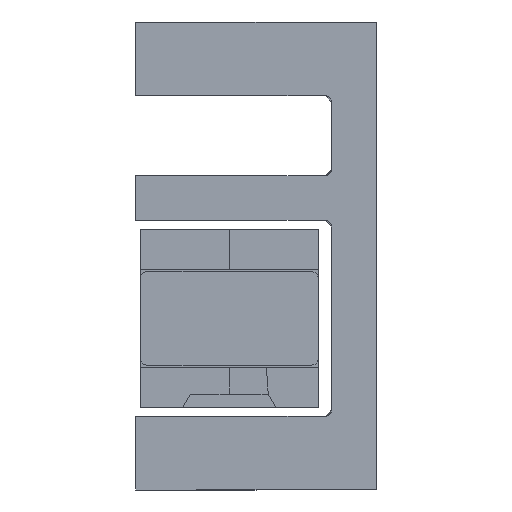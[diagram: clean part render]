
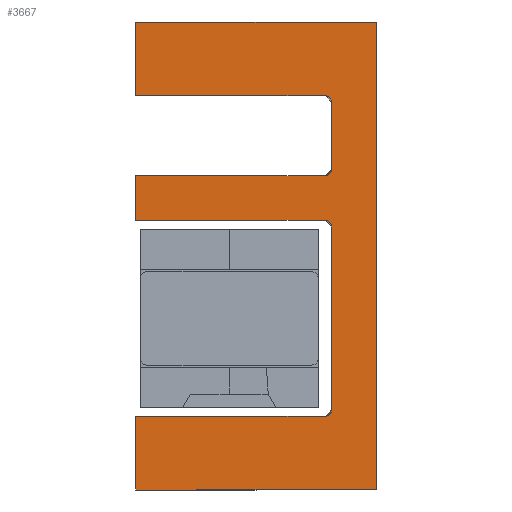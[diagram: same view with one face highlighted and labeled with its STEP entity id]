
A CAD part, front view. The second image highlights one B-rep face of the part: STEP entity #3667.
In plain terms, the highlighted planar face has unit normal (0, -1, 0) as drawn and (0, 0, -1) by its records, which use the part's own axes.
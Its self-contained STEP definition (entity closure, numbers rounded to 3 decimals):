
#71 = CIRCLE ( 'NONE', #4836, 0.3 ) ;
#95 = ORIENTED_EDGE ( 'NONE', *, *, #5570, .F. ) ;
#126 = ORIENTED_EDGE ( 'NONE', *, *, #2183, .T. ) ;
#128 = CIRCLE ( 'NONE', #4555, 0.3 ) ;
#149 = CARTESIAN_POINT ( 'NONE',  ( 12.4, 1.6, -2870. ) ) ;
#159 = CARTESIAN_POINT ( 'NONE',  ( 12.7, 10.1, -2870. ) ) ;
#184 = DIRECTION ( 'NONE',  ( 0., -1., 0. ) ) ;
#193 = CARTESIAN_POINT ( 'NONE',  ( 22.3, 1.6, -2870. ) ) ;
#306 = VERTEX_POINT ( 'NONE', #6514 ) ;
#453 = ORIENTED_EDGE ( 'NONE', *, *, #702, .T. ) ;
#595 = PLANE ( 'NONE',  #3410 ) ;
#604 = DIRECTION ( 'NONE',  ( -1., 0., 0. ) ) ;
#640 = CARTESIAN_POINT ( 'NONE',  ( 16., 1.6, -2870. ) ) ;
#641 = VECTOR ( 'NONE', #4451, 1000. ) ;
#672 = LINE ( 'NONE', #4343, #641 ) ;
#674 = LINE ( 'NONE', #193, #859 ) ;
#681 = VECTOR ( 'NONE', #4325, 1000. ) ;
#693 = EDGE_CURVE ( 'NONE', #3002, #4669, #6436, .T. ) ;
#702 = EDGE_CURVE ( 'NONE', #1860, #306, #3296, .T. ) ;
#738 = ORIENTED_EDGE ( 'NONE', *, *, #5176, .F. ) ;
#859 = VECTOR ( 'NONE', #4879, 1000. ) ;
#895 = DIRECTION ( 'NONE',  ( 0., 1., 0. ) ) ;
#924 = EDGE_CURVE ( 'NONE', #6634, #4389, #128, .T. ) ;
#1288 = DIRECTION ( 'NONE',  ( 0., 0., -1. ) ) ;
#1315 = DIRECTION ( 'NONE',  ( 0., 0., 1. ) ) ;
#1376 = EDGE_CURVE ( 'NONE', #6278, #5947, #2585, .T. ) ;
#1378 = DIRECTION ( 'NONE',  ( 1., 0., 0. ) ) ;
#1404 = LINE ( 'NONE', #3520, #5212 ) ;
#1506 = EDGE_CURVE ( 'NONE', #5431, #2708, #6385, .T. ) ;
#1605 = CARTESIAN_POINT ( 'NONE',  ( 20.8, 12.4, -2870. ) ) ;
#1801 = ORIENTED_EDGE ( 'NONE', *, *, #693, .T. ) ;
#1836 = EDGE_CURVE ( 'NONE', #4497, #2887, #5273, .T. ) ;
#1855 = ORIENTED_EDGE ( 'NONE', *, *, #6544, .F. ) ;
#1860 = VERTEX_POINT ( 'NONE', #3919 ) ;
#1868 = CARTESIAN_POINT ( 'NONE',  ( 22.3, 1.6, -2870. ) ) ;
#2111 = ORIENTED_EDGE ( 'NONE', *, *, #4165, .F. ) ;
#2142 = LINE ( 'NONE', #6263, #6172 ) ;
#2183 = EDGE_CURVE ( 'NONE', #3126, #1860, #71, .T. ) ;
#2337 = LINE ( 'NONE', #1868, #5378 ) ;
#2585 = LINE ( 'NONE', #5247, #5030 ) ;
#2624 = DIRECTION ( 'NONE',  ( 1., 0., 0. ) ) ;
#2691 = CARTESIAN_POINT ( 'NONE',  ( 19.3, 1.6, -2870. ) ) ;
#2708 = VERTEX_POINT ( 'NONE', #2691 ) ;
#2821 = DIRECTION ( 'NONE',  ( -1., 0., 0. ) ) ;
#2886 = CARTESIAN_POINT ( 'NONE',  ( 12.7, 10.4, -2870. ) ) ;
#2887 = VERTEX_POINT ( 'NONE', #3180 ) ;
#2994 = ORIENTED_EDGE ( 'NONE', *, *, #4009, .T. ) ;
#3002 = VERTEX_POINT ( 'NONE', #6737 ) ;
#3126 = VERTEX_POINT ( 'NONE', #5459 ) ;
#3154 = DIRECTION ( 'NONE',  ( 1., 0., 0. ) ) ;
#3155 = EDGE_LOOP ( 'NONE', ( #4136, #1855, #5850, #738, #2111, #3463, #4441, #5709, #4427, #4111, #2994, #126, #453, #95, #1801, #6660 ) ) ;
#3180 = CARTESIAN_POINT ( 'NONE',  ( 16., 10.1, -2870. ) ) ;
#3206 = CARTESIAN_POINT ( 'NONE',  ( 19.3, 12.4, -2870. ) ) ;
#3208 = VERTEX_POINT ( 'NONE', #2886 ) ;
#3233 = VERTEX_POINT ( 'NONE', #5598 ) ;
#3284 = DIRECTION ( 'NONE',  ( 0., 0., -1. ) ) ;
#3296 = LINE ( 'NONE', #3329, #4773 ) ;
#3329 = CARTESIAN_POINT ( 'NONE',  ( 1.6, 1.9, -2870. ) ) ;
#3395 = DIRECTION ( 'NONE',  ( 1., 0., 0. ) ) ;
#3402 = DIRECTION ( 'NONE',  ( 1., 0., 0. ) ) ;
#3410 = AXIS2_PLACEMENT_3D ( 'NONE', #3704, #5285, #2624 ) ;
#3463 = ORIENTED_EDGE ( 'NONE', *, *, #5532, .F. ) ;
#3520 = CARTESIAN_POINT ( 'NONE',  ( 16., 10.4, -2870. ) ) ;
#3615 = LINE ( 'NONE', #1605, #5909 ) ;
#3638 = EDGE_CURVE ( 'NONE', #3233, #5947, #2142, .T. ) ;
#3667 = ADVANCED_FACE ( 'NONE', ( #4121 ), #595, .T. ) ;
#3704 = CARTESIAN_POINT ( 'NONE',  ( 20.8, 10.7, -2870. ) ) ;
#3738 = CARTESIAN_POINT ( 'NONE',  ( 12.4, 10.1, -2870. ) ) ;
#3838 = CARTESIAN_POINT ( 'NONE',  ( 15.7, 10.1, -2870. ) ) ;
#3848 = DIRECTION ( 'NONE',  ( 0., 1., 0. ) ) ;
#3874 = CARTESIAN_POINT ( 'NONE',  ( 15.7, 10.4, -2870. ) ) ;
#3919 = CARTESIAN_POINT ( 'NONE',  ( 1.6, 10.1, -2870. ) ) ;
#4009 = EDGE_CURVE ( 'NONE', #4389, #3126, #6595, .T. ) ;
#4028 = CARTESIAN_POINT ( 'NONE',  ( 10.1, 10.1, -2870. ) ) ;
#4081 = VECTOR ( 'NONE', #2821, 1000. ) ;
#4110 = DIRECTION ( 'NONE',  ( 1., 0., 0. ) ) ;
#4111 = ORIENTED_EDGE ( 'NONE', *, *, #924, .T. ) ;
#4121 = FACE_OUTER_BOUND ( 'NONE', #3155, .T. ) ;
#4136 = ORIENTED_EDGE ( 'NONE', *, *, #1506, .T. ) ;
#4165 = EDGE_CURVE ( 'NONE', #3208, #6402, #1404, .T. ) ;
#4325 = DIRECTION ( 'NONE',  ( 0., -1., 0. ) ) ;
#4343 = CARTESIAN_POINT ( 'NONE',  ( 10.4, 10.1, -2870. ) ) ;
#4389 = VERTEX_POINT ( 'NONE', #5929 ) ;
#4427 = ORIENTED_EDGE ( 'NONE', *, *, #4429, .T. ) ;
#4429 = EDGE_CURVE ( 'NONE', #3233, #6634, #672, .T. ) ;
#4441 = ORIENTED_EDGE ( 'NONE', *, *, #1376, .T. ) ;
#4451 = DIRECTION ( 'NONE',  ( 0., 1., 0. ) ) ;
#4497 = VERTEX_POINT ( 'NONE', #640 ) ;
#4516 = CIRCLE ( 'NONE', #5397, 0.3 ) ;
#4555 = AXIS2_PLACEMENT_3D ( 'NONE', #4028, #1315, #3395 ) ;
#4618 = DIRECTION ( 'NONE',  ( 0., -1., 0. ) ) ;
#4669 = VERTEX_POINT ( 'NONE', #6788 ) ;
#4727 = DIRECTION ( 'NONE',  ( 1., 0., 0. ) ) ;
#4773 = VECTOR ( 'NONE', #184, 1000. ) ;
#4820 = VECTOR ( 'NONE', #895, 1000. ) ;
#4822 = CARTESIAN_POINT ( 'NONE',  ( 19.3, 10.4, -2870. ) ) ;
#4836 = AXIS2_PLACEMENT_3D ( 'NONE', #5732, #5348, #4727 ) ;
#4879 = DIRECTION ( 'NONE',  ( 1., 0., 0. ) ) ;
#4895 = DIRECTION ( 'NONE',  ( 1., 0., 0. ) ) ;
#5030 = VECTOR ( 'NONE', #4618, 1000. ) ;
#5038 = CARTESIAN_POINT ( 'NONE',  ( 10.4, 10.1, -2870. ) ) ;
#5176 = EDGE_CURVE ( 'NONE', #6402, #2887, #6486, .T. ) ;
#5194 = AXIS2_PLACEMENT_3D ( 'NONE', #3838, #3284, #4895 ) ;
#5212 = VECTOR ( 'NONE', #4110, 1000. ) ;
#5247 = CARTESIAN_POINT ( 'NONE',  ( 12.4, 10.4, -2870. ) ) ;
#5273 = LINE ( 'NONE', #5749, #4820 ) ;
#5285 = DIRECTION ( 'NONE',  ( 0., 0., -1. ) ) ;
#5348 = DIRECTION ( 'NONE',  ( 0., 0., 1. ) ) ;
#5378 = VECTOR ( 'NONE', #1378, 1000. ) ;
#5397 = AXIS2_PLACEMENT_3D ( 'NONE', #159, #1288, #3402 ) ;
#5431 = VERTEX_POINT ( 'NONE', #3206 ) ;
#5459 = CARTESIAN_POINT ( 'NONE',  ( 1.9, 10.4, -2870. ) ) ;
#5478 = CARTESIAN_POINT ( 'NONE',  ( -1.7, 10.4, -2870. ) ) ;
#5532 = EDGE_CURVE ( 'NONE', #6278, #3208, #4516, .T. ) ;
#5570 = EDGE_CURVE ( 'NONE', #3002, #306, #674, .T. ) ;
#5598 = CARTESIAN_POINT ( 'NONE',  ( 10.4, 1.6, -2870. ) ) ;
#5709 = ORIENTED_EDGE ( 'NONE', *, *, #3638, .F. ) ;
#5732 = CARTESIAN_POINT ( 'NONE',  ( 1.9, 10.1, -2870. ) ) ;
#5749 = CARTESIAN_POINT ( 'NONE',  ( 16., 9.7, -2870. ) ) ;
#5850 = ORIENTED_EDGE ( 'NONE', *, *, #1836, .T. ) ;
#5907 = EDGE_CURVE ( 'NONE', #5431, #4669, #3615, .T. ) ;
#5909 = VECTOR ( 'NONE', #604, 1000. ) ;
#5929 = CARTESIAN_POINT ( 'NONE',  ( 10.1, 10.4, -2870. ) ) ;
#5947 = VERTEX_POINT ( 'NONE', #149 ) ;
#6044 = CARTESIAN_POINT ( 'NONE',  ( 1.9, 10.4, -2870. ) ) ;
#6172 = VECTOR ( 'NONE', #3154, 1000. ) ;
#6193 = VECTOR ( 'NONE', #3848, 1000. ) ;
#6263 = CARTESIAN_POINT ( 'NONE',  ( 22.3, 1.6, -2870. ) ) ;
#6278 = VERTEX_POINT ( 'NONE', #3738 ) ;
#6385 = LINE ( 'NONE', #4822, #681 ) ;
#6402 = VERTEX_POINT ( 'NONE', #3874 ) ;
#6436 = LINE ( 'NONE', #5478, #6193 ) ;
#6486 = CIRCLE ( 'NONE', #5194, 0.3 ) ;
#6514 = CARTESIAN_POINT ( 'NONE',  ( 1.6, 1.6, -2870. ) ) ;
#6544 = EDGE_CURVE ( 'NONE', #4497, #2708, #2337, .T. ) ;
#6595 = LINE ( 'NONE', #6044, #4081 ) ;
#6634 = VERTEX_POINT ( 'NONE', #5038 ) ;
#6660 = ORIENTED_EDGE ( 'NONE', *, *, #5907, .F. ) ;
#6737 = CARTESIAN_POINT ( 'NONE',  ( -1.7, 1.6, -2870. ) ) ;
#6788 = CARTESIAN_POINT ( 'NONE',  ( -1.7, 12.4, -2870. ) ) ;
